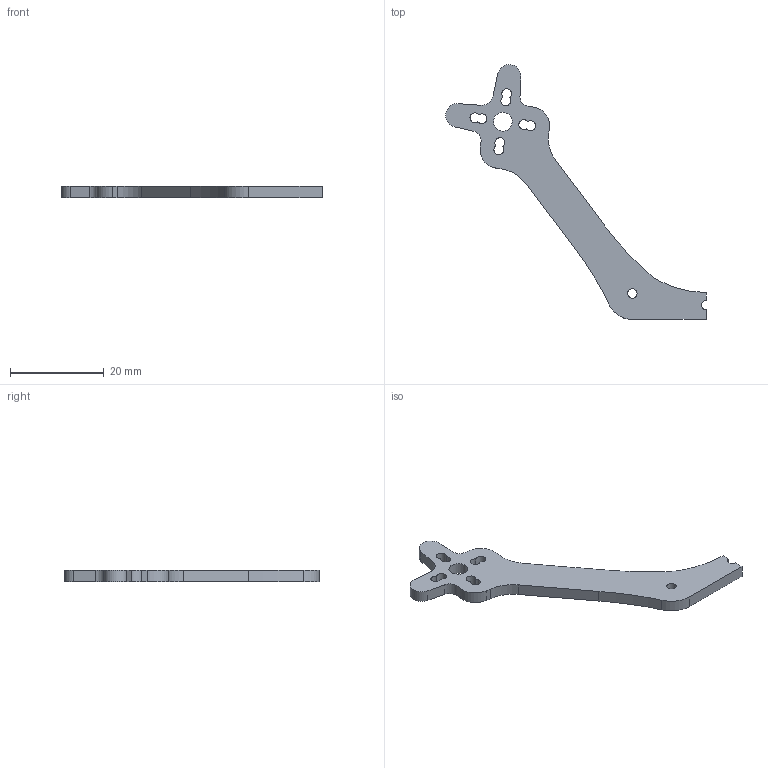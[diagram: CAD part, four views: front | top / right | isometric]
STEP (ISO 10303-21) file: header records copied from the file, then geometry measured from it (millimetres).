
FILE_DESCRIPTION(/* description */ (''),/* implementation_level */ '2;1');
FILE_NAME(/* name */ 'GoFlyPro - 3-Zoll - Arm - 9and12mm.step',/* time_stamp */ '2026-07-04T12:51:02+02:00',/* author */ (''),/* organization */ (''),/* preprocessor_version */ 'ST-DEVELOPER v20.1',/* originating_system */ 'Autodesk Translation Framework v15.8.0.0',/* authorisation */ '');
FILE_SCHEMA (('AUTOMOTIVE_DESIGN { 1 0 10303 214 3 1 1 }'));
Length unit declared in the file: millimetre
Products named in the file (1): GoFlyPro - 3-Zoll - Arm - 9and12mm
Bounding box: 55.48 x 54.24 x 2.5 mm (x, y, z)
Volume: 1600.3 mm3; surface area: 1867.5 mm2
Topology: 1 solids, 1 shells, 39 faces, 111 edges, 74 vertices
Faces by surface type: cylinder 21, plane 15, bspline 3
Full cylindrical faces by diameter (mm): 2 x1, 4 x1
Entity records: 1360 total; most frequent: CARTESIAN_POINT 240, DIRECTION 233, ORIENTED_EDGE 222, EDGE_CURVE 111, AXIS2_PLACEMENT_3D 85, VERTEX_POINT 74, LINE 63, VECTOR 63
